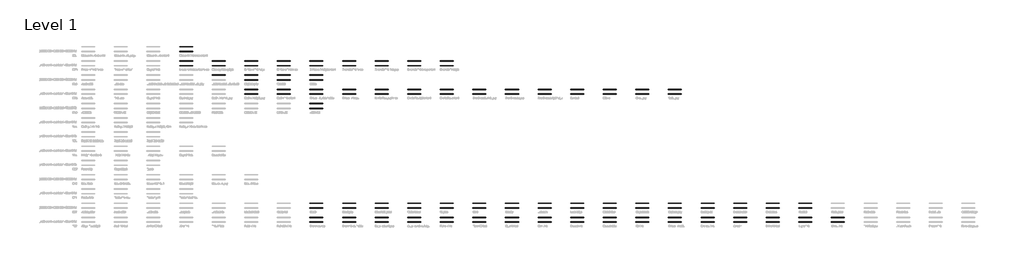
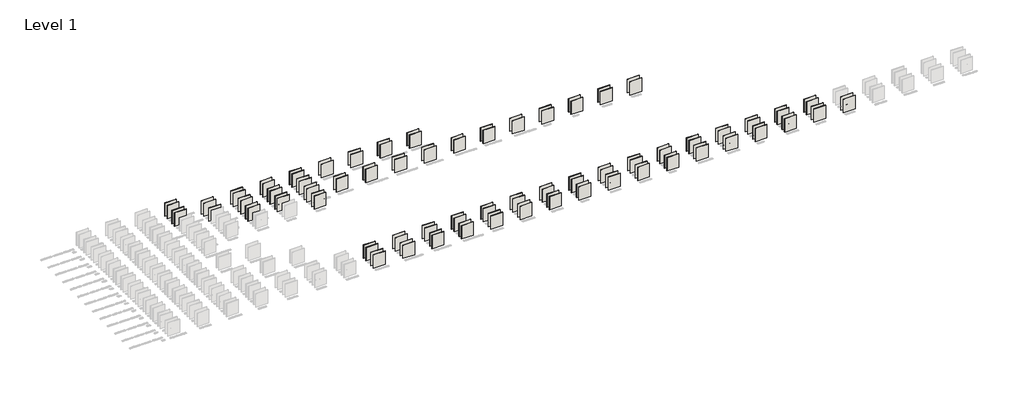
# One storey, part 2 of 99: 123 walls.
"""IFC4 building model written with IfcOpenShell, lengths in millimetres."""

from ifc_helpers import new_model, si_unit, origin, origin_with_axes, place, context, project, spatial, polyline, outline, extrude, element, save

model = new_model("IFC4")

# Units and contexts
model_context = context("Model", 3, world=origin())
ifc_project = project(units=[si_unit("LENGTHUNIT", "METRE", prefix="MILLI")], contexts=[model_context])

# Site, building, storey
site = spatial("IfcSite", under=ifc_project)
building = spatial("IfcBuilding", under=site)
storey = spatial("IfcBuildingStorey", under=building, Name="Level 1", Elevation=0.0)

# Walls
placement = place(None, origin())
element("IfcWall", 1, ObjectType="RSen_22_WA_partition wall - metal stud - Clicwall FR BST Carrara creamy 2785x600x10 mm_Unilin", at=placement, inside=storey, context=model_context, shape_type="SweptSolid", body=[
    extrude(outline(polyline([(72694.8, 1179.2), (69342.0, 1179.2), (69342.0, 1259.2), (72694.8, 1259.2), (72694.8, 1179.2)])), origin_with_axes(), (0.0, 0.0, 1.0), 4000.0),
])
element("IfcWall", 2, ObjectType="RSen_22_WA_partition wall - metal stud - chipboard - Clicwall FR BST Carrara creamy 2785x600x10 mm_Unilin", at=placement, inside=storey, context=model_context, shape_type="SweptSolid", body=[
    extrude(outline(polyline([(72694.8, 2392.4), (69342.0, 2392.4), (69342.0, 2484.4), (72694.8, 2484.4), (72694.8, 2392.4)])), origin_with_axes(), (0.0, 0.0, 1.0), 4000.0),
])
element("IfcWall", 3, ObjectType="RSen_22_WA_partition wall - metal stud - Clicwall FR BST Carrara frosted white 2785x600x10 mm_Unilin", at=placement, inside=storey, context=model_context, shape_type="SweptSolid", body=[
    extrude(outline(polyline([(81076.8, 1179.2), (77724.0, 1179.2), (77724.0, 1259.2), (81076.8, 1259.2), (81076.8, 1179.2)])), origin_with_axes(), (0.0, 0.0, 1.0), 4000.0),
])
element("IfcWall", 4, ObjectType="RSen_22_WA_partition wall - metal stud - chipboard - Clicwall FR BST Carrara frosted white 2785x600x10 mm_Unilin", at=placement, inside=storey, context=model_context, shape_type="SweptSolid", body=[
    extrude(outline(polyline([(81076.8, 2392.4), (77724.0, 2392.4), (77724.0, 2484.4), (81076.8, 2484.4), (81076.8, 2392.4)])), origin_with_axes(), (0.0, 0.0, 1.0), 4000.0),
])
element("IfcWall", 5, ObjectType="RSen_22_WA_partition wall - metal stud - Clicwall FR BST Ceppo mineral grey 2785x600x10 mm_Unilin", at=placement, inside=storey, context=model_context, shape_type="SweptSolid", body=[
    extrude(outline(polyline([(89458.8, 1179.2), (86106.0, 1179.2), (86106.0, 1259.2), (89458.8, 1259.2), (89458.8, 1179.2)])), origin_with_axes(), (0.0, 0.0, 1.0), 4000.0),
])
element("IfcWall", 6, ObjectType="RSen_22_WA_partition wall - metal stud - chipboard - Clicwall FR BST Ceppo mineral grey 2785x600x10 mm_Unilin", at=placement, inside=storey, context=model_context, shape_type="SweptSolid", body=[
    extrude(outline(polyline([(89458.8, 2392.4), (86106.0, 2392.4), (86106.0, 2484.4), (89458.8, 2484.4), (89458.8, 2392.4)])), origin_with_axes(), (0.0, 0.0, 1.0), 4000.0),
])
element("IfcWall", 7, ObjectType="RSen_22_WA_partition wall - metal stud - Clicwall FR BST Ceppo seashore beige 2785x600x10 mm_Unilin", at=placement, inside=storey, context=model_context, shape_type="SweptSolid", body=[
    extrude(outline(polyline([(97840.8, 1179.2), (94488.0, 1179.2), (94488.0, 1259.2), (97840.8, 1259.2), (97840.8, 1179.2)])), origin_with_axes(), (0.0, 0.0, 1.0), 4000.0),
])
element("IfcWall", 8, ObjectType="RSen_22_WA_partition wall - metal stud - chipboard - Clicwall FR BST Ceppo seashore beige 2785x600x10 mm_Unilin", at=placement, inside=storey, context=model_context, shape_type="SweptSolid", body=[
    extrude(outline(polyline([(97840.8, 2392.4), (94488.0, 2392.4), (94488.0, 2484.4), (97840.8, 2484.4), (97840.8, 2392.4)])), origin_with_axes(), (0.0, 0.0, 1.0), 4000.0),
])
element("IfcWall", 9, ObjectType="RSen_22_WA_partition wall - metal stud - Clicwall FR BST Delano Oak 2785x600x10 mm_Unilin", at=placement, inside=storey, context=model_context, shape_type="SweptSolid", body=[
    extrude(outline(polyline([(106222.8, 1179.2), (102870.0, 1179.2), (102870.0, 1259.2), (106222.8, 1259.2), (106222.8, 1179.2)])), origin_with_axes(), (0.0, 0.0, 1.0), 4000.0),
])
element("IfcWall", 10, ObjectType="RSen_22_WA_partition wall - metal stud - chipboard - Clicwall FR BST Delano Oak 2785x600x10 mm_Unilin", at=placement, inside=storey, context=model_context, shape_type="SweptSolid", body=[
    extrude(outline(polyline([(106222.8, 2392.4), (102870.0, 2392.4), (102870.0, 2484.4), (106222.8, 2484.4), (106222.8, 2392.4)])), origin_with_axes(), (0.0, 0.0, 1.0), 4000.0),
])
element("IfcWall", 11, ObjectType="RSen_22_WA_partition wall - metal stud - Clicwall FR BST Dinara Walnut 2785x600x10 mm_Unilin", at=placement, inside=storey, context=model_context, shape_type="SweptSolid", body=[
    extrude(outline(polyline([(114604.8, 1179.2), (111252.0, 1179.2), (111252.0, 1259.2), (114604.8, 1259.2), (114604.8, 1179.2)])), origin_with_axes(), (0.0, 0.0, 1.0), 4000.0),
])
element("IfcWall", 12, ObjectType="RSen_22_WA_partition wall - metal stud - chipboard - Clicwall FR BST Dinara Walnut 2785x600x10 mm_Unilin", at=placement, inside=storey, context=model_context, shape_type="SweptSolid", body=[
    extrude(outline(polyline([(114604.8, 2392.4), (111252.0, 2392.4), (111252.0, 2484.4), (114604.8, 2484.4), (114604.8, 2392.4)])), origin_with_axes(), (0.0, 0.0, 1.0), 4000.0),
])
element("IfcWall", 13, ObjectType="RSen_22_WA_partition wall - metal stud - Clicwall FR BST Eiger Walnut 2785x600x10 mm_Unilin", at=placement, inside=storey, context=model_context, shape_type="SweptSolid", body=[
    extrude(outline(polyline([(122986.8, 1179.2), (119634.0, 1179.2), (119634.0, 1259.2), (122986.8, 1259.2), (122986.8, 1179.2)])), origin_with_axes(), (0.0, 0.0, 1.0), 4000.0),
])
element("IfcWall", 14, ObjectType="RSen_22_WA_partition wall - metal stud - chipboard - Clicwall FR BST Eiger Walnut 2785x600x10 mm_Unilin", at=placement, inside=storey, context=model_context, shape_type="SweptSolid", body=[
    extrude(outline(polyline([(122986.8, 2392.4), (119634.0, 2392.4), (119634.0, 2484.4), (122986.8, 2484.4), (122986.8, 2392.4)])), origin_with_axes(), (0.0, 0.0, 1.0), 4000.0),
])
element("IfcWall", 15, ObjectType="RSen_22_WA_partition wall - metal stud - Clicwall FR BST Etna Oak 2785x600x10 mm_Unilin", at=placement, inside=storey, context=model_context, shape_type="SweptSolid", body=[
    extrude(outline(polyline([(131368.8, 1179.2), (128016.0, 1179.2), (128016.0, 1259.2), (131368.8, 1259.2), (131368.8, 1179.2)])), origin_with_axes(), (0.0, 0.0, 1.0), 4000.0),
])
element("IfcWall", 16, ObjectType="RSen_22_WA_partition wall - metal stud - chipboard - Clicwall FR BST Etna Oak 2785x600x10 mm_Unilin", at=placement, inside=storey, context=model_context, shape_type="SweptSolid", body=[
    extrude(outline(polyline([(131368.8, 2392.4), (128016.0, 2392.4), (128016.0, 2484.4), (131368.8, 2484.4), (131368.8, 2392.4)])), origin_with_axes(), (0.0, 0.0, 1.0), 4000.0),
])
element("IfcWall", 17, ObjectType="RSen_22_WA_partition wall - metal stud - Clicwall FR BST Everest oak 2785x600x10 mm_Unilin", at=placement, inside=storey, context=model_context, shape_type="SweptSolid", body=[
    extrude(outline(polyline([(139750.8, 1179.2), (136398.0, 1179.2), (136398.0, 1259.2), (139750.8, 1259.2), (139750.8, 1179.2)])), origin_with_axes(), (0.0, 0.0, 1.0), 4000.0),
])
element("IfcWall", 18, ObjectType="RSen_22_WA_partition wall - metal stud - chipboard - Clicwall FR BST Everest oak 2785x600x10 mm_Unilin", at=placement, inside=storey, context=model_context, shape_type="SweptSolid", body=[
    extrude(outline(polyline([(139750.8, 2392.4), (136398.0, 2392.4), (136398.0, 2484.4), (139750.8, 2484.4), (139750.8, 2392.4)])), origin_with_axes(), (0.0, 0.0, 1.0), 4000.0),
])
element("IfcWall", 19, ObjectType="RSen_22_WA_partition wall - metal stud - Clicwall FR BST Everest white 2785x600x10 mm_Unilin", at=placement, inside=storey, context=model_context, shape_type="SweptSolid", body=[
    extrude(outline(polyline([(148132.8, 1179.2), (144780.0, 1179.2), (144780.0, 1259.2), (148132.8, 1259.2), (148132.8, 1179.2)])), origin_with_axes(), (0.0, 0.0, 1.0), 4000.0),
])
element("IfcWall", 20, ObjectType="RSen_22_WA_partition wall - metal stud - chipboard - Clicwall FR BST Everest white 2785x600x10 mm_Unilin", at=placement, inside=storey, context=model_context, shape_type="SweptSolid", body=[
    extrude(outline(polyline([(148132.8, 2392.4), (144780.0, 2392.4), (144780.0, 2484.4), (148132.8, 2484.4), (148132.8, 2392.4)])), origin_with_axes(), (0.0, 0.0, 1.0), 4000.0),
])
element("IfcWall", 21, ObjectType="RSen_22_WA_partition wall - metal stud - Clicwall FR BST Fiji Oak  2785x600x10 mm_Unilin", at=placement, inside=storey, context=model_context, shape_type="SweptSolid", body=[
    extrude(outline(polyline([(156514.8, 1179.2), (153162.0, 1179.2), (153162.0, 1259.2), (156514.8, 1259.2), (156514.8, 1179.2)])), origin_with_axes(), (0.0, 0.0, 1.0), 4000.0),
])
element("IfcWall", 22, ObjectType="RSen_22_WA_partition wall - metal stud - chipboard - Clicwall FR BST Fiji Oak  2785x600x10 mm_Unilin", at=placement, inside=storey, context=model_context, shape_type="SweptSolid", body=[
    extrude(outline(polyline([(156514.8, 2392.4), (153162.0, 2392.4), (153162.0, 2484.4), (156514.8, 2484.4), (156514.8, 2392.4)])), origin_with_axes(), (0.0, 0.0, 1.0), 4000.0),
])
element("IfcWall", 23, ObjectType="RSen_22_WA_partition wall - metal stud - Clicwall FR BST Flakewood white 2785x600x10 mm_Unilin", at=placement, inside=storey, context=model_context, shape_type="SweptSolid", body=[
    extrude(outline(polyline([(164896.8, 1179.2), (161544.0, 1179.2), (161544.0, 1259.2), (164896.8, 1259.2), (164896.8, 1179.2)])), origin_with_axes(), (0.0, 0.0, 1.0), 4000.0),
])
element("IfcWall", 24, ObjectType="RSen_22_WA_partition wall - metal stud - chipboard - Clicwall FR BST Flakewood white 2785x600x10 mm_Unilin", at=placement, inside=storey, context=model_context, shape_type="SweptSolid", body=[
    extrude(outline(polyline([(164896.8, 2392.4), (161544.0, 2392.4), (161544.0, 2484.4), (164896.8, 2484.4), (164896.8, 2392.4)])), origin_with_axes(), (0.0, 0.0, 1.0), 4000.0),
])
element("IfcWall", 25, ObjectType="RSen_22_WA_partition wall - metal stud - Clicwall FR BST Garonne Oak 2785x600x10 mm_Unilin", at=placement, inside=storey, context=model_context, shape_type="SweptSolid", body=[
    extrude(outline(polyline([(173278.8, 1179.2), (169926.0, 1179.2), (169926.0, 1259.2), (173278.8, 1259.2), (173278.8, 1179.2)])), origin_with_axes(), (0.0, 0.0, 1.0), 4000.0),
])
element("IfcWall", 26, ObjectType="RSen_22_WA_partition wall - metal stud - chipboard - Clicwall FR BST Garonne Oak 2785x600x10 mm_Unilin", at=placement, inside=storey, context=model_context, shape_type="SweptSolid", body=[
    extrude(outline(polyline([(173278.8, 2392.4), (169926.0, 2392.4), (169926.0, 2484.4), (173278.8, 2484.4), (173278.8, 2392.4)])), origin_with_axes(), (0.0, 0.0, 1.0), 4000.0),
])
element("IfcWall", 27, ObjectType="RSen_22_WA_partition wall - metal stud - Clicwall FR BST Granulo 2785x600x10 mm_Unilin", at=placement, inside=storey, context=model_context, shape_type="SweptSolid", body=[
    extrude(outline(polyline([(181660.8, 1179.2), (178308.0, 1179.2), (178308.0, 1259.2), (181660.8, 1259.2), (181660.8, 1179.2)])), origin_with_axes(), (0.0, 0.0, 1.0), 4000.0),
])
element("IfcWall", 28, ObjectType="RSen_22_WA_partition wall - metal stud - chipboard - Clicwall FR BST Granulo 2785x600x10 mm_Unilin", at=placement, inside=storey, context=model_context, shape_type="SweptSolid", body=[
    extrude(outline(polyline([(181660.8, 2392.4), (178308.0, 2392.4), (178308.0, 2484.4), (181660.8, 2484.4), (181660.8, 2392.4)])), origin_with_axes(), (0.0, 0.0, 1.0), 4000.0),
])
element("IfcWall", 29, ObjectType="RSen_22_WA_partition wall - metal stud - Clicwall FR BST Italian Walnut 2785x600x10 mm_Unilin", at=placement, inside=storey, context=model_context, shape_type="SweptSolid", body=[
    extrude(outline(polyline([(190042.8, 1179.2), (186690.0, 1179.2), (186690.0, 1259.2), (190042.8, 1259.2), (190042.8, 1179.2)])), origin_with_axes(), (0.0, 0.0, 1.0), 4000.0),
])
element("IfcWall", 30, ObjectType="RSen_22_WA_partition wall - metal stud - chipboard - Clicwall FR BST Italian Walnut 2785x600x10 mm_Unilin", at=placement, inside=storey, context=model_context, shape_type="SweptSolid", body=[
    extrude(outline(polyline([(190042.8, 2392.4), (186690.0, 2392.4), (186690.0, 2484.4), (190042.8, 2484.4), (190042.8, 2392.4)])), origin_with_axes(), (0.0, 0.0, 1.0), 4000.0),
])
element("IfcWall", 31, ObjectType="RSen_22_WA_partition wall - metal stud - Clicwall FR BST Logan Oak 2785x600x10 mm_Unilin", at=placement, inside=storey, context=model_context, shape_type="SweptSolid", body=[
    extrude(outline(polyline([(198424.8, 1179.2), (195072.0, 1179.2), (195072.0, 1259.2), (198424.8, 1259.2), (198424.8, 1179.2)])), origin_with_axes(), (0.0, 0.0, 1.0), 4000.0),
])
element("IfcWall", 32, ObjectType="RSen_22_WA_partition wall - metal stud - chipboard - Clicwall FR BST Logan Oak 2785x600x10 mm_Unilin", at=placement, inside=storey, context=model_context, shape_type="SweptSolid", body=[
    extrude(outline(polyline([(198424.8, 2392.4), (195072.0, 2392.4), (195072.0, 2484.4), (198424.8, 2484.4), (198424.8, 2392.4)])), origin_with_axes(), (0.0, 0.0, 1.0), 4000.0),
])
element("IfcWall", 33, ObjectType="RSen_22_WA_partition wall - metal stud - Clicwall FR BST Marne Oak 2785x600x10 mm_Unilin", at=placement, inside=storey, context=model_context, shape_type="SweptSolid", body=[
    extrude(outline(polyline([(206806.8, 1179.2), (203454.0, 1179.2), (203454.0, 1259.2), (206806.8, 1259.2), (206806.8, 1179.2)])), origin_with_axes(), (0.0, 0.0, 1.0), 4000.0),
])
element("IfcWall", 34, ObjectType="RSen_22_WA_partition wall - metal stud - chipboard - Clicwall FR BST Marne Oak 2785x600x10 mm_Unilin", at=placement, inside=storey, context=model_context, shape_type="SweptSolid", body=[
    extrude(outline(polyline([(206806.8, 2392.4), (203454.0, 2392.4), (203454.0, 2484.4), (206806.8, 2484.4), (206806.8, 2392.4)])), origin_with_axes(), (0.0, 0.0, 1.0), 4000.0),
])
element("IfcWall", 35, ObjectType="RSen_22_WA_partition wall - metal stud - Clicwall FR CST Choco 2785x600x10 mm_Unilin", at=placement, inside=storey, context=model_context, shape_type="SweptSolid", body=[
    extrude(outline(polyline([(72694.8, 4836.8), (69342.0, 4836.8), (69342.0, 4916.8), (72694.8, 4916.8), (72694.8, 4836.8)])), origin_with_axes(), (0.0, 0.0, 1.0), 4000.0),
])
element("IfcWall", 36, ObjectType="RSen_22_WA_partition wall - metal stud - chipboard - Clicwall FR CST Choco 2785x600x10 mm_Unilin", at=placement, inside=storey, context=model_context, shape_type="SweptSolid", body=[
    extrude(outline(polyline([(72694.8, 6050.0), (69342.0, 6050.0), (69342.0, 6142.0), (72694.8, 6142.0), (72694.8, 6050.0)])), origin_with_axes(), (0.0, 0.0, 1.0), 4000.0),
])
element("IfcWall", 37, ObjectType="RSen_22_WA_partition wall - metal stud - Clicwall FR CST Cloud grey 2785x600x10 mm_Unilin", at=placement, inside=storey, context=model_context, shape_type="SweptSolid", body=[
    extrude(outline(polyline([(81076.8, 4836.8), (77724.0, 4836.8), (77724.0, 4916.8), (81076.8, 4916.8), (81076.8, 4836.8)])), origin_with_axes(), (0.0, 0.0, 1.0), 4000.0),
])
element("IfcWall", 38, ObjectType="RSen_22_WA_partition wall - metal stud - chipboard - Clicwall FR CST Cloud grey 2785x600x10 mm_Unilin", at=placement, inside=storey, context=model_context, shape_type="SweptSolid", body=[
    extrude(outline(polyline([(81076.8, 6050.0), (77724.0, 6050.0), (77724.0, 6142.0), (81076.8, 6142.0), (81076.8, 6050.0)])), origin_with_axes(), (0.0, 0.0, 1.0), 4000.0),
])
element("IfcWall", 39, ObjectType="RSen_22_WA_partition wall - metal stud - Clicwall FR CST Cloverfield green 2785x600x10 mm_Unilin", at=placement, inside=storey, context=model_context, shape_type="SweptSolid", body=[
    extrude(outline(polyline([(89458.8, 4836.8), (86106.0, 4836.8), (86106.0, 4916.8), (89458.8, 4916.8), (89458.8, 4836.8)])), origin_with_axes(), (0.0, 0.0, 1.0), 4000.0),
])
element("IfcWall", 40, ObjectType="RSen_22_WA_partition wall - metal stud - chipboard - Clicwall FR CST Cloverfield green 2785x600x10 mm_Unilin", at=placement, inside=storey, context=model_context, shape_type="SweptSolid", body=[
    extrude(outline(polyline([(89458.8, 6050.0), (86106.0, 6050.0), (86106.0, 6142.0), (89458.8, 6142.0), (89458.8, 6050.0)])), origin_with_axes(), (0.0, 0.0, 1.0), 4000.0),
])
element("IfcWall", 41, ObjectType="RSen_22_WA_partition wall - metal stud - Clicwall FR CST Coffee brown 2785x600x10 mm_Unilin", at=placement, inside=storey, context=model_context, shape_type="SweptSolid", body=[
    extrude(outline(polyline([(97840.8, 4836.8), (94488.0, 4836.8), (94488.0, 4916.8), (97840.8, 4916.8), (97840.8, 4836.8)])), origin_with_axes(), (0.0, 0.0, 1.0), 4000.0),
])
element("IfcWall", 42, ObjectType="RSen_22_WA_partition wall - metal stud - chipboard - Clicwall FR CST Coffee brown 2785x600x10 mm_Unilin", at=placement, inside=storey, context=model_context, shape_type="SweptSolid", body=[
    extrude(outline(polyline([(97840.8, 6050.0), (94488.0, 6050.0), (94488.0, 6142.0), (97840.8, 6142.0), (97840.8, 6050.0)])), origin_with_axes(), (0.0, 0.0, 1.0), 4000.0),
])
element("IfcWall", 43, ObjectType="RSen_22_WA_partition wall - metal stud - Clicwall FR CST Cognac 2785x600x10 mm_Unilin", at=placement, inside=storey, context=model_context, shape_type="SweptSolid", body=[
    extrude(outline(polyline([(106222.8, 4836.8), (102870.0, 4836.8), (102870.0, 4916.8), (106222.8, 4916.8), (106222.8, 4836.8)])), origin_with_axes(), (0.0, 0.0, 1.0), 4000.0),
])
element("IfcWall", 44, ObjectType="RSen_22_WA_partition wall - metal stud - chipboard - Clicwall FR CST Cognac 2785x600x10 mm_Unilin", at=placement, inside=storey, context=model_context, shape_type="SweptSolid", body=[
    extrude(outline(polyline([(106222.8, 6050.0), (102870.0, 6050.0), (102870.0, 6142.0), (106222.8, 6142.0), (106222.8, 6050.0)])), origin_with_axes(), (0.0, 0.0, 1.0), 4000.0),
])
element("IfcWall", 45, ObjectType="RSen_22_WA_partition wall - metal stud - Clicwall FR CST Coral 2785x600x10 mm_Unilin", at=placement, inside=storey, context=model_context, shape_type="SweptSolid", body=[
    extrude(outline(polyline([(114604.8, 4836.8), (111252.0, 4836.8), (111252.0, 4916.8), (114604.8, 4916.8), (114604.8, 4836.8)])), origin_with_axes(), (0.0, 0.0, 1.0), 4000.0),
])
element("IfcWall", 46, ObjectType="RSen_22_WA_partition wall - metal stud - chipboard - Clicwall FR CST Coral 2785x600x10 mm_Unilin", at=placement, inside=storey, context=model_context, shape_type="SweptSolid", body=[
    extrude(outline(polyline([(114604.8, 6050.0), (111252.0, 6050.0), (111252.0, 6142.0), (114604.8, 6142.0), (114604.8, 6050.0)])), origin_with_axes(), (0.0, 0.0, 1.0), 4000.0),
])
element("IfcWall", 47, ObjectType="RSen_22_WA_partition wall - metal stud - Clicwall FR CST Creamy 2785x600x10 mm_Unilin", at=placement, inside=storey, context=model_context, shape_type="SweptSolid", body=[
    extrude(outline(polyline([(122986.8, 4836.8), (119634.0, 4836.8), (119634.0, 4916.8), (122986.8, 4916.8), (122986.8, 4836.8)])), origin_with_axes(), (0.0, 0.0, 1.0), 4000.0),
])
element("IfcWall", 48, ObjectType="RSen_22_WA_partition wall - metal stud - chipboard - Clicwall FR CST Creamy 2785x600x10 mm_Unilin", at=placement, inside=storey, context=model_context, shape_type="SweptSolid", body=[
    extrude(outline(polyline([(122986.8, 6050.0), (119634.0, 6050.0), (119634.0, 6142.0), (122986.8, 6142.0), (122986.8, 6050.0)])), origin_with_axes(), (0.0, 0.0, 1.0), 4000.0),
])
element("IfcWall", 49, ObjectType="RSen_22_WA_partition wall - metal stud - Clicwall FR CST Dark ecru 2785x600x10 mm_Unilin", at=placement, inside=storey, context=model_context, shape_type="SweptSolid", body=[
    extrude(outline(polyline([(131368.8, 4836.8), (128016.0, 4836.8), (128016.0, 4916.8), (131368.8, 4916.8), (131368.8, 4836.8)])), origin_with_axes(), (0.0, 0.0, 1.0), 4000.0),
])
element("IfcWall", 50, ObjectType="RSen_22_WA_partition wall - metal stud - chipboard - Clicwall FR CST Dark ecru 2785x600x10 mm_Unilin", at=placement, inside=storey, context=model_context, shape_type="SweptSolid", body=[
    extrude(outline(polyline([(131368.8, 6050.0), (128016.0, 6050.0), (128016.0, 6142.0), (131368.8, 6142.0), (131368.8, 6050.0)])), origin_with_axes(), (0.0, 0.0, 1.0), 4000.0),
])
element("IfcWall", 51, ObjectType="RSen_22_WA_partition wall - metal stud - Clicwall FR CST Dune beige 2785x600x10 mm_Unilin", at=placement, inside=storey, context=model_context, shape_type="SweptSolid", body=[
    extrude(outline(polyline([(139750.8, 4836.8), (136398.0, 4836.8), (136398.0, 4916.8), (139750.8, 4916.8), (139750.8, 4836.8)])), origin_with_axes(), (0.0, 0.0, 1.0), 4000.0),
])
element("IfcWall", 52, ObjectType="RSen_22_WA_partition wall - metal stud - chipboard - Clicwall FR CST Dune beige 2785x600x10 mm_Unilin", at=placement, inside=storey, context=model_context, shape_type="SweptSolid", body=[
    extrude(outline(polyline([(139750.8, 6050.0), (136398.0, 6050.0), (136398.0, 6142.0), (139750.8, 6142.0), (139750.8, 6050.0)])), origin_with_axes(), (0.0, 0.0, 1.0), 4000.0),
])
element("IfcWall", 53, ObjectType="RSen_22_WA_partition wall - metal stud - Clicwall FR CST Electric blue 2785x600x10 mm_Unilin", at=placement, inside=storey, context=model_context, shape_type="SweptSolid", body=[
    extrude(outline(polyline([(148132.8, 4836.8), (144780.0, 4836.8), (144780.0, 4916.8), (148132.8, 4916.8), (148132.8, 4836.8)])), origin_with_axes(), (0.0, 0.0, 1.0), 4000.0),
])
element("IfcWall", 54, ObjectType="RSen_22_WA_partition wall - metal stud - chipboard - Clicwall FR CST Electric blue 2785x600x10 mm_Unilin", at=placement, inside=storey, context=model_context, shape_type="SweptSolid", body=[
    extrude(outline(polyline([(148132.8, 6050.0), (144780.0, 6050.0), (144780.0, 6142.0), (148132.8, 6142.0), (148132.8, 6050.0)])), origin_with_axes(), (0.0, 0.0, 1.0), 4000.0),
])
element("IfcWall", 55, ObjectType="RSen_22_WA_partition wall - metal stud - Clicwall FR CST Elegant black 2785x600x10 mm_Unilin", at=placement, inside=storey, context=model_context, shape_type="SweptSolid", body=[
    extrude(outline(polyline([(156514.8, 4836.8), (153162.0, 4836.8), (153162.0, 4916.8), (156514.8, 4916.8), (156514.8, 4836.8)])), origin_with_axes(), (0.0, 0.0, 1.0), 4000.0),
])
element("IfcWall", 56, ObjectType="RSen_22_WA_partition wall - metal stud - chipboard - Clicwall FR CST Elegant black 2785x600x10 mm_Unilin", at=placement, inside=storey, context=model_context, shape_type="SweptSolid", body=[
    extrude(outline(polyline([(156514.8, 6050.0), (153162.0, 6050.0), (153162.0, 6142.0), (156514.8, 6142.0), (156514.8, 6050.0)])), origin_with_axes(), (0.0, 0.0, 1.0), 4000.0),
])
element("IfcWall", 57, ObjectType="RSen_22_WA_partition wall - metal stud - Clicwall FR CST Elephant grey 2785x600x10 mm_Unilin", at=placement, inside=storey, context=model_context, shape_type="SweptSolid", body=[
    extrude(outline(polyline([(164896.8, 4836.8), (161544.0, 4836.8), (161544.0, 4916.8), (164896.8, 4916.8), (164896.8, 4836.8)])), origin_with_axes(), (0.0, 0.0, 1.0), 4000.0),
])
element("IfcWall", 58, ObjectType="RSen_22_WA_partition wall - metal stud - chipboard - Clicwall FR CST Elephant grey 2785x600x10 mm_Unilin", at=placement, inside=storey, context=model_context, shape_type="SweptSolid", body=[
    extrude(outline(polyline([(164896.8, 6050.0), (161544.0, 6050.0), (161544.0, 6142.0), (164896.8, 6142.0), (164896.8, 6050.0)])), origin_with_axes(), (0.0, 0.0, 1.0), 4000.0),
])
element("IfcWall", 59, ObjectType="RSen_22_WA_partition wall - metal stud - Clicwall FR CST Evening red 2785x600x10 mm_Unilin", at=placement, inside=storey, context=model_context, shape_type="SweptSolid", body=[
    extrude(outline(polyline([(173278.8, 4836.8), (169926.0, 4836.8), (169926.0, 4916.8), (173278.8, 4916.8), (173278.8, 4836.8)])), origin_with_axes(), (0.0, 0.0, 1.0), 4000.0),
])
element("IfcWall", 60, ObjectType="RSen_22_WA_partition wall - metal stud - chipboard - Clicwall FR CST Evening red 2785x600x10 mm_Unilin", at=placement, inside=storey, context=model_context, shape_type="SweptSolid", body=[
    extrude(outline(polyline([(173278.8, 6050.0), (169926.0, 6050.0), (169926.0, 6142.0), (173278.8, 6142.0), (173278.8, 6050.0)])), origin_with_axes(), (0.0, 0.0, 1.0), 4000.0),
])
element("IfcWall", 61, ObjectType="RSen_22_WA_partition wall - metal stud - Clicwall FR CST Everest white 2785x600x10 mm_Unilin", at=placement, inside=storey, context=model_context, shape_type="SweptSolid", body=[
    extrude(outline(polyline([(181660.8, 4836.8), (178308.0, 4836.8), (178308.0, 4916.8), (181660.8, 4916.8), (181660.8, 4836.8)])), origin_with_axes(), (0.0, 0.0, 1.0), 4000.0),
])
element("IfcWall", 62, ObjectType="RSen_22_WA_partition wall - metal stud - chipboard - Clicwall FR CST Everest white 2785x600x10 mm_Unilin", at=placement, inside=storey, context=model_context, shape_type="SweptSolid", body=[
    extrude(outline(polyline([(181660.8, 6050.0), (178308.0, 6050.0), (178308.0, 6142.0), (181660.8, 6142.0), (181660.8, 6050.0)])), origin_with_axes(), (0.0, 0.0, 1.0), 4000.0),
])
element("IfcWall", 63, ObjectType="RSen_22_WA_partition wall - metal stud - Clicwall FR CST Exotic blue 2785x600x10 mm_Unilin", at=placement, inside=storey, context=model_context, shape_type="SweptSolid", body=[
    extrude(outline(polyline([(190042.8, 4836.8), (186690.0, 4836.8), (186690.0, 4916.8), (190042.8, 4916.8), (190042.8, 4836.8)])), origin_with_axes(), (0.0, 0.0, 1.0), 4000.0),
])
element("IfcWall", 64, ObjectType="RSen_22_WA_partition wall - metal stud - chipboard - Clicwall FR CST Exotic blue 2785x600x10 mm_Unilin", at=placement, inside=storey, context=model_context, shape_type="SweptSolid", body=[
    extrude(outline(polyline([(190042.8, 6050.0), (186690.0, 6050.0), (186690.0, 6142.0), (190042.8, 6142.0), (190042.8, 6050.0)])), origin_with_axes(), (0.0, 0.0, 1.0), 4000.0),
])
element("IfcWall", 65, ObjectType="RSen_22_WA_partition wall - metal stud - Clicwall FR CST Fondant  2785x600x10 mm_Unilin", at=placement, inside=storey, context=model_context, shape_type="SweptSolid", body=[
    extrude(outline(polyline([(198424.8, 4836.8), (195072.0, 4836.8), (195072.0, 4916.8), (198424.8, 4916.8), (198424.8, 4836.8)])), origin_with_axes(), (0.0, 0.0, 1.0), 4000.0),
])
element("IfcWall", 66, ObjectType="RSen_22_WA_partition wall - metal stud - chipboard - Clicwall FR CST Fondant  2785x600x10 mm_Unilin", at=placement, inside=storey, context=model_context, shape_type="SweptSolid", body=[
    extrude(outline(polyline([(198424.8, 6050.0), (195072.0, 6050.0), (195072.0, 6142.0), (198424.8, 6142.0), (198424.8, 6050.0)])), origin_with_axes(), (0.0, 0.0, 1.0), 4000.0),
])
element("IfcWall", 67, ObjectType="RSen_22_WA_partition wall - metal stud - Clicwall FR W03 Rena Pine 2785x600x10 mm_Unilin", at=placement, inside=storey, context=model_context, shape_type="SweptSolid", body=[
    extrude(outline(polyline([(72694.8, 30440.0), (69342.0, 30440.0), (69342.0, 30520.0), (72694.8, 30520.0), (72694.8, 30440.0)])), origin_with_axes(), (0.0, 0.0, 1.0), 4000.0),
])
element("IfcWall", 68, ObjectType="RSen_22_WA_partition wall - metal stud - chipboard - Clicwall FR W03 Rena Pine 2785x600x10 mm_Unilin", at=placement, inside=storey, context=model_context, shape_type="SweptSolid", body=[
    extrude(outline(polyline([(72694.8, 31653.2), (69342.0, 31653.2), (69342.0, 31745.2), (72694.8, 31745.2), (72694.8, 31653.2)])), origin_with_axes(), (0.0, 0.0, 1.0), 4000.0),
])
element("IfcWall", 69, ObjectType="RSen_22_WA_partition wall - metal stud - Clicwall FR W04 Emilia Oak light grey 2785x600x10 mm_Unilin", at=placement, inside=storey, context=model_context, shape_type="SweptSolid", body=[
    extrude(outline(polyline([(55930.8, 34097.6), (52578.0, 34097.6), (52578.0, 34177.6), (55930.8, 34177.6), (55930.8, 34097.6)])), origin_with_axes(), (0.0, 0.0, 1.0), 4000.0),
])
element("IfcWall", 70, ObjectType="RSen_22_WA_partition wall - metal stud - chipboard - Clicwall FR W04 Emilia Oak light grey 2785x600x10 mm_Unilin", at=placement, inside=storey, context=model_context, shape_type="SweptSolid", body=[
    extrude(outline(polyline([(55930.8, 35310.8), (52578.0, 35310.8), (52578.0, 35402.8), (55930.8, 35402.8), (55930.8, 35310.8)])), origin_with_axes(), (0.0, 0.0, 1.0), 4000.0),
])
element("IfcWall", 71, ObjectType="RSen_22_WA_partition wall - metal stud - Clicwall FR W04 Emilia Oak natural 2785x600x10 mm_Unilin", at=placement, inside=storey, context=model_context, shape_type="SweptSolid", body=[
    extrude(outline(polyline([(64312.8, 34097.6), (60960.0, 34097.6), (60960.0, 34177.6), (64312.8, 34177.6), (64312.8, 34097.6)])), origin_with_axes(), (0.0, 0.0, 1.0), 4000.0),
])
element("IfcWall", 72, ObjectType="RSen_22_WA_partition wall - metal stud - chipboard - Clicwall FR W04 Emilia Oak natural 2785x600x10 mm_Unilin", at=placement, inside=storey, context=model_context, shape_type="SweptSolid", body=[
    extrude(outline(polyline([(64312.8, 35310.8), (60960.0, 35310.8), (60960.0, 35402.8), (64312.8, 35402.8), (64312.8, 35310.8)])), origin_with_axes(), (0.0, 0.0, 1.0), 4000.0),
])
element("IfcWall", 73, ObjectType="RSen_22_WA_partition wall - metal stud - Clicwall FR W04 Flakewood painted white 2785x600x10 mm_Unilin", at=placement, inside=storey, context=model_context, shape_type="SweptSolid", body=[
    extrude(outline(polyline([(72694.8, 34097.6), (69342.0, 34097.6), (69342.0, 34177.6), (72694.8, 34177.6), (72694.8, 34097.6)])), origin_with_axes(), (0.0, 0.0, 1.0), 4000.0),
])
element("IfcWall", 74, ObjectType="RSen_22_WA_partition wall - metal stud - chipboard - Clicwall FR W04 Flakewood painted white 2785x600x10 mm_Unilin", at=placement, inside=storey, context=model_context, shape_type="SweptSolid", body=[
    extrude(outline(polyline([(72694.8, 35310.8), (69342.0, 35310.8), (69342.0, 35402.8), (72694.8, 35402.8), (72694.8, 35310.8)])), origin_with_axes(), (0.0, 0.0, 1.0), 4000.0),
])
element("IfcWall", 75, ObjectType="RSen_22_WA_partition wall - metal stud - Clicwall FR W04 Flakewood taupe 2785x600x10 mm_Unilin", at=placement, inside=storey, context=model_context, shape_type="SweptSolid", body=[
    extrude(outline(polyline([(81076.8, 34097.6), (77724.0, 34097.6), (77724.0, 34177.6), (81076.8, 34177.6), (81076.8, 34097.6)])), origin_with_axes(), (0.0, 0.0, 1.0), 4000.0),
])
element("IfcWall", 76, ObjectType="RSen_22_WA_partition wall - metal stud - chipboard - Clicwall FR W04 Flakewood taupe 2785x600x10 mm_Unilin", at=placement, inside=storey, context=model_context, shape_type="SweptSolid", body=[
    extrude(outline(polyline([(81076.8, 35310.8), (77724.0, 35310.8), (77724.0, 35402.8), (81076.8, 35402.8), (81076.8, 35310.8)])), origin_with_axes(), (0.0, 0.0, 1.0), 4000.0),
])
element("IfcWall", 77, ObjectType="RSen_22_WA_partition wall - metal stud - Clicwall FR W04 Nordic Pine grey brown 2785x600x10 mm_Unilin", at=placement, inside=storey, context=model_context, shape_type="SweptSolid", body=[
    extrude(outline(polyline([(89458.8, 34097.6), (86106.0, 34097.6), (86106.0, 34177.6), (89458.8, 34177.6), (89458.8, 34097.6)])), origin_with_axes(), (0.0, 0.0, 1.0), 4000.0),
])
element("IfcWall", 78, ObjectType="RSen_22_WA_partition wall - metal stud - chipboard - Clicwall FR W04 Nordic Pine grey brown 2785x600x10 mm_Unilin", at=placement, inside=storey, context=model_context, shape_type="SweptSolid", body=[
    extrude(outline(polyline([(89458.8, 35310.8), (86106.0, 35310.8), (86106.0, 35402.8), (89458.8, 35402.8), (89458.8, 35310.8)])), origin_with_axes(), (0.0, 0.0, 1.0), 4000.0),
])
element("IfcWall", 79, ObjectType="RSen_22_WA_partition wall - metal stud - Clicwall FR W04 Nordic Pine light natural 2785x600x10 mm_Unilin", at=placement, inside=storey, context=model_context, shape_type="SweptSolid", body=[
    extrude(outline(polyline([(97840.8, 34097.6), (94488.0, 34097.6), (94488.0, 34177.6), (97840.8, 34177.6), (97840.8, 34097.6)])), origin_with_axes(), (0.0, 0.0, 1.0), 4000.0),
])
element("IfcWall", 80, ObjectType="RSen_22_WA_partition wall - metal stud - chipboard - Clicwall FR W04 Nordic Pine light natural 2785x600x10 mm_Unilin", at=placement, inside=storey, context=model_context, shape_type="SweptSolid", body=[
    extrude(outline(polyline([(97840.8, 35310.8), (94488.0, 35310.8), (94488.0, 35402.8), (97840.8, 35402.8), (97840.8, 35310.8)])), origin_with_axes(), (0.0, 0.0, 1.0), 4000.0),
])
element("IfcWall", 81, ObjectType="RSen_22_WA_partition wall - metal stud - Clicwall FR W04 Nordic Pine natural 2785x600x10 mm_Unilin", at=placement, inside=storey, context=model_context, shape_type="SweptSolid", body=[
    extrude(outline(polyline([(106222.8, 34097.6), (102870.0, 34097.6), (102870.0, 34177.6), (106222.8, 34177.6), (106222.8, 34097.6)])), origin_with_axes(), (0.0, 0.0, 1.0), 4000.0),
])
element("IfcWall", 82, ObjectType="RSen_22_WA_partition wall - metal stud - chipboard - Clicwall FR W04 Nordic Pine natural 2785x600x10 mm_Unilin", at=placement, inside=storey, context=model_context, shape_type="SweptSolid", body=[
    extrude(outline(polyline([(106222.8, 35310.8), (102870.0, 35310.8), (102870.0, 35402.8), (106222.8, 35402.8), (106222.8, 35310.8)])), origin_with_axes(), (0.0, 0.0, 1.0), 4000.0),
])
element("IfcWall", 83, ObjectType="RSen_22_WA_partition wall - metal stud - Clicwall FR W04 Raw Concrete dark grey 2785x600x10 mm_Unilin", at=placement, inside=storey, context=model_context, shape_type="SweptSolid", body=[
    extrude(outline(polyline([(114604.8, 34097.6), (111252.0, 34097.6), (111252.0, 34177.6), (114604.8, 34177.6), (114604.8, 34097.6)])), origin_with_axes(), (0.0, 0.0, 1.0), 4000.0),
])
element("IfcWall", 84, ObjectType="RSen_22_WA_partition wall - metal stud - chipboard - Clicwall FR W04 Raw Concrete dark grey 2785x600x10 mm_Unilin", at=placement, inside=storey, context=model_context, shape_type="SweptSolid", body=[
    extrude(outline(polyline([(114604.8, 35310.8), (111252.0, 35310.8), (111252.0, 35402.8), (114604.8, 35402.8), (114604.8, 35310.8)])), origin_with_axes(), (0.0, 0.0, 1.0), 4000.0),
])
element("IfcWall", 85, ObjectType="RSen_22_WA_partition wall - metal stud - Clicwall FR W04 Raw Concrete grey 2785x600x10 mm_Unilin", at=placement, inside=storey, context=model_context, shape_type="SweptSolid", body=[
    extrude(outline(polyline([(122986.8, 34097.6), (119634.0, 34097.6), (119634.0, 34177.6), (122986.8, 34177.6), (122986.8, 34097.6)])), origin_with_axes(), (0.0, 0.0, 1.0), 4000.0),
])
element("IfcWall", 86, ObjectType="RSen_22_WA_partition wall - metal stud - chipboard - Clicwall FR W04 Raw Concrete grey 2785x600x10 mm_Unilin", at=placement, inside=storey, context=model_context, shape_type="SweptSolid", body=[
    extrude(outline(polyline([(122986.8, 35310.8), (119634.0, 35310.8), (119634.0, 35402.8), (122986.8, 35402.8), (122986.8, 35310.8)])), origin_with_axes(), (0.0, 0.0, 1.0), 4000.0),
])
element("IfcWall", 87, ObjectType="RSen_22_WA_partition wall - metal stud - Clicwall FR W04 Raw Concrete light beige 2785x600x10 mm_Unilin", at=placement, inside=storey, context=model_context, shape_type="SweptSolid", body=[
    extrude(outline(polyline([(131368.8, 34097.6), (128016.0, 34097.6), (128016.0, 34177.6), (131368.8, 34177.6), (131368.8, 34097.6)])), origin_with_axes(), (0.0, 0.0, 1.0), 4000.0),
])
element("IfcWall", 88, ObjectType="RSen_22_WA_partition wall - metal stud - chipboard - Clicwall FR W04 Raw Concrete light beige 2785x600x10 mm_Unilin", at=placement, inside=storey, context=model_context, shape_type="SweptSolid", body=[
    extrude(outline(polyline([(131368.8, 35310.8), (128016.0, 35310.8), (128016.0, 35402.8), (131368.8, 35402.8), (131368.8, 35310.8)])), origin_with_axes(), (0.0, 0.0, 1.0), 4000.0),
])
element("IfcWall", 89, ObjectType="RSen_22_WA_partition wall - metal stud - Clicwall FR W04 Seashell 2785x600x10 mm_Unilin", at=placement, inside=storey, context=model_context, shape_type="SweptSolid", body=[
    extrude(outline(polyline([(139750.8, 34097.6), (136398.0, 34097.6), (136398.0, 34177.6), (139750.8, 34177.6), (139750.8, 34097.6)])), origin_with_axes(), (0.0, 0.0, 1.0), 4000.0),
])
element("IfcWall", 90, ObjectType="RSen_22_WA_partition wall - metal stud - chipboard - Clicwall FR W04 Seashell 2785x600x10 mm_Unilin", at=placement, inside=storey, context=model_context, shape_type="SweptSolid", body=[
    extrude(outline(polyline([(139750.8, 35310.8), (136398.0, 35310.8), (136398.0, 35402.8), (139750.8, 35402.8), (139750.8, 35310.8)])), origin_with_axes(), (0.0, 0.0, 1.0), 4000.0),
])
element("IfcWall", 91, ObjectType="RSen_22_WA_partition wall - metal stud - Clicwall FR W04 Silicon  2785x600x10 mm_Unilin", at=placement, inside=storey, context=model_context, shape_type="SweptSolid", body=[
    extrude(outline(polyline([(148132.8, 34097.6), (144780.0, 34097.6), (144780.0, 34177.6), (148132.8, 34177.6), (148132.8, 34097.6)])), origin_with_axes(), (0.0, 0.0, 1.0), 4000.0),
])
element("IfcWall", 92, ObjectType="RSen_22_WA_partition wall - metal stud - chipboard - Clicwall FR W04 Silicon  2785x600x10 mm_Unilin", at=placement, inside=storey, context=model_context, shape_type="SweptSolid", body=[
    extrude(outline(polyline([(148132.8, 35310.8), (144780.0, 35310.8), (144780.0, 35402.8), (148132.8, 35402.8), (148132.8, 35310.8)])), origin_with_axes(), (0.0, 0.0, 1.0), 4000.0),
])
element("IfcWall", 93, ObjectType="RSen_22_WA_partition wall - metal stud - Clicwall FR W04 Stone grey 2785x600x10 mm_Unilin", at=placement, inside=storey, context=model_context, shape_type="SweptSolid", body=[
    extrude(outline(polyline([(156514.8, 34097.6), (153162.0, 34097.6), (153162.0, 34177.6), (156514.8, 34177.6), (156514.8, 34097.6)])), origin_with_axes(), (0.0, 0.0, 1.0), 4000.0),
])
element("IfcWall", 94, ObjectType="RSen_22_WA_partition wall - metal stud - chipboard - Clicwall FR W04 Stone grey 2785x600x10 mm_Unilin", at=placement, inside=storey, context=model_context, shape_type="SweptSolid", body=[
    extrude(outline(polyline([(156514.8, 35310.8), (153162.0, 35310.8), (153162.0, 35402.8), (156514.8, 35402.8), (156514.8, 35310.8)])), origin_with_axes(), (0.0, 0.0, 1.0), 4000.0),
])
element("IfcWall", 95, ObjectType="RSen_22_WA_partition wall - metal stud - Clicwall FR W04 Turtle grey 2785x600x10 mm_Unilin", at=placement, inside=storey, context=model_context, shape_type="SweptSolid", body=[
    extrude(outline(polyline([(164896.8, 34097.6), (161544.0, 34097.6), (161544.0, 34177.6), (164896.8, 34177.6), (164896.8, 34097.6)])), origin_with_axes(), (0.0, 0.0, 1.0), 4000.0),
])
element("IfcWall", 96, ObjectType="RSen_22_WA_partition wall - metal stud - chipboard - Clicwall FR W04 Turtle grey 2785x600x10 mm_Unilin", at=placement, inside=storey, context=model_context, shape_type="SweptSolid", body=[
    extrude(outline(polyline([(164896.8, 35310.8), (161544.0, 35310.8), (161544.0, 35402.8), (164896.8, 35402.8), (164896.8, 35310.8)])), origin_with_axes(), (0.0, 0.0, 1.0), 4000.0),
])
element("IfcWall", 97, ObjectType="RSen_22_WA_partition wall - metal stud - chipboard - Clicwall FR W05 Desert brushed Oak natural 2785x600x10 mm_Unilin", at=placement, inside=storey, context=model_context, shape_type="SweptSolid", body=[
    extrude(outline(polyline([(47548.8, 38968.4), (44196.0, 38968.4), (44196.0, 39060.4), (47548.8, 39060.4), (47548.8, 38968.4)])), origin_with_axes(), (0.0, 0.0, 1.0), 4000.0),
])
element("IfcWall", 98, ObjectType="RSen_22_WA_partition wall - metal stud - Clicwall FR W05 Elephant grey 2785x600x10 mm_Unilin", at=placement, inside=storey, context=model_context, shape_type="SweptSolid", body=[
    extrude(outline(polyline([(55930.8, 37755.2), (52578.0, 37755.2), (52578.0, 37835.2), (55930.8, 37835.2), (55930.8, 37755.2)])), origin_with_axes(), (0.0, 0.0, 1.0), 4000.0),
])
element("IfcWall", 99, ObjectType="RSen_22_WA_partition wall - metal stud - chipboard - Clicwall FR W05 Elephant grey 2785x600x10 mm_Unilin", at=placement, inside=storey, context=model_context, shape_type="SweptSolid", body=[
    extrude(outline(polyline([(55930.8, 38968.4), (52578.0, 38968.4), (52578.0, 39060.4), (55930.8, 39060.4), (55930.8, 38968.4)])), origin_with_axes(), (0.0, 0.0, 1.0), 4000.0),
])
element("IfcWall", 100, ObjectType="RSen_22_WA_partition wall - metal stud - Clicwall FR W05 Seashell 2785x600x10 mm_Unilin", at=placement, inside=storey, context=model_context, shape_type="SweptSolid", body=[
    extrude(outline(polyline([(64312.8, 37755.2), (60960.0, 37755.2), (60960.0, 37835.2), (64312.8, 37835.2), (64312.8, 37755.2)])), origin_with_axes(), (0.0, 0.0, 1.0), 4000.0),
])
element("IfcWall", 101, ObjectType="RSen_22_WA_partition wall - metal stud - chipboard - Clicwall FR W05 Seashell 2785x600x10 mm_Unilin", at=placement, inside=storey, context=model_context, shape_type="SweptSolid", body=[
    extrude(outline(polyline([(64312.8, 38968.4), (60960.0, 38968.4), (60960.0, 39060.4), (64312.8, 39060.4), (64312.8, 38968.4)])), origin_with_axes(), (0.0, 0.0, 1.0), 4000.0),
])
element("IfcWall", 102, ObjectType="RSen_22_WA_partition wall - metal stud - Clicwall FR W05 Silicon  2785x600x10 mm_Unilin", at=placement, inside=storey, context=model_context, shape_type="SweptSolid", body=[
    extrude(outline(polyline([(72694.8, 37755.2), (69342.0, 37755.2), (69342.0, 37835.2), (72694.8, 37835.2), (72694.8, 37755.2)])), origin_with_axes(), (0.0, 0.0, 1.0), 4000.0),
])
element("IfcWall", 103, ObjectType="RSen_22_WA_partition wall - metal stud - chipboard - Clicwall FR W05 Silicon  2785x600x10 mm_Unilin", at=placement, inside=storey, context=model_context, shape_type="SweptSolid", body=[
    extrude(outline(polyline([(72694.8, 38968.4), (69342.0, 38968.4), (69342.0, 39060.4), (72694.8, 39060.4), (72694.8, 38968.4)])), origin_with_axes(), (0.0, 0.0, 1.0), 4000.0),
])
element("IfcWall", 104, ObjectType="RSen_22_WA_partition wall - metal stud - Clicwall FR W06 Lorenzo walnut medium brown 2785x600x10 mm_Unilin", at=placement, inside=storey, context=model_context, shape_type="SweptSolid", body=[
    extrude(outline(polyline([(39166.8, 41412.8), (35814.0, 41412.8), (35814.0, 41492.8), (39166.8, 41492.8), (39166.8, 41412.8)])), origin_with_axes(), (0.0, 0.0, 1.0), 4000.0),
])
element("IfcWall", 105, ObjectType="RSen_22_WA_partition wall - metal stud - chipboard - Clicwall FR W06 Lorenzo walnut medium brown 2785x600x10 mm_Unilin", at=placement, inside=storey, context=model_context, shape_type="SweptSolid", body=[
    extrude(outline(polyline([(39166.8, 42626.0), (35814.0, 42626.0), (35814.0, 42718.0), (39166.8, 42718.0), (39166.8, 42626.0)])), origin_with_axes(), (0.0, 0.0, 1.0), 4000.0),
])
element("IfcWall", 106, ObjectType="RSen_22_WA_partition wall - metal stud - Clicwall FR W06 Missoury Hickory light 2785x600x10 mm_Unilin", at=placement, inside=storey, context=model_context, shape_type="SweptSolid", body=[
    extrude(outline(polyline([(47548.8, 41412.8), (44196.0, 41412.8), (44196.0, 41492.8), (47548.8, 41492.8), (47548.8, 41412.8)])), origin_with_axes(), (0.0, 0.0, 1.0), 4000.0),
])
element("IfcWall", 107, ObjectType="RSen_22_WA_partition wall - metal stud - chipboard - Clicwall FR W06 Missoury Hickory light 2785x600x10 mm_Unilin", at=placement, inside=storey, context=model_context, shape_type="SweptSolid", body=[
    extrude(outline(polyline([(47548.8, 42626.0), (44196.0, 42626.0), (44196.0, 42718.0), (47548.8, 42718.0), (47548.8, 42626.0)])), origin_with_axes(), (0.0, 0.0, 1.0), 4000.0),
])
element("IfcWall", 108, ObjectType="RSen_22_WA_partition wall - metal stud - Clicwall FR W06 Robinson Oak beige 2785x600x10 mm_Unilin", at=placement, inside=storey, context=model_context, shape_type="SweptSolid", body=[
    extrude(outline(polyline([(55930.8, 41412.8), (52578.0, 41412.8), (52578.0, 41492.8), (55930.8, 41492.8), (55930.8, 41412.8)])), origin_with_axes(), (0.0, 0.0, 1.0), 4000.0),
])
element("IfcWall", 109, ObjectType="RSen_22_WA_partition wall - metal stud - chipboard - Clicwall FR W06 Robinson Oak beige 2785x600x10 mm_Unilin", at=placement, inside=storey, context=model_context, shape_type="SweptSolid", body=[
    extrude(outline(polyline([(55930.8, 42626.0), (52578.0, 42626.0), (52578.0, 42718.0), (55930.8, 42718.0), (55930.8, 42626.0)])), origin_with_axes(), (0.0, 0.0, 1.0), 4000.0),
])
element("IfcWall", 110, ObjectType="RSen_22_WA_partition wall - metal stud - Clicwall FR W06 Robinson Oak brown 2785x600x10 mm_Unilin", at=placement, inside=storey, context=model_context, shape_type="SweptSolid", body=[
    extrude(outline(polyline([(64312.8, 41412.8), (60960.0, 41412.8), (60960.0, 41492.8), (64312.8, 41492.8), (64312.8, 41412.8)])), origin_with_axes(), (0.0, 0.0, 1.0), 4000.0),
])
element("IfcWall", 111, ObjectType="RSen_22_WA_partition wall - metal stud - chipboard - Clicwall FR W06 Robinson Oak brown 2785x600x10 mm_Unilin", at=placement, inside=storey, context=model_context, shape_type="SweptSolid", body=[
    extrude(outline(polyline([(64312.8, 42626.0), (60960.0, 42626.0), (60960.0, 42718.0), (64312.8, 42718.0), (64312.8, 42626.0)])), origin_with_axes(), (0.0, 0.0, 1.0), 4000.0),
])
element("IfcWall", 112, ObjectType="RSen_22_WA_partition wall - metal stud - Clicwall FR W06 Robinson Oak light natural 2785x600x10 mm_Unilin", at=placement, inside=storey, context=model_context, shape_type="SweptSolid", body=[
    extrude(outline(polyline([(72694.8, 41412.8), (69342.0, 41412.8), (69342.0, 41492.8), (72694.8, 41492.8), (72694.8, 41412.8)])), origin_with_axes(), (0.0, 0.0, 1.0), 4000.0),
])
element("IfcWall", 113, ObjectType="RSen_22_WA_partition wall - metal stud - chipboard - Clicwall FR W06 Robinson Oak light natural 2785x600x10 mm_Unilin", at=placement, inside=storey, context=model_context, shape_type="SweptSolid", body=[
    extrude(outline(polyline([(72694.8, 42626.0), (69342.0, 42626.0), (69342.0, 42718.0), (72694.8, 42718.0), (72694.8, 42626.0)])), origin_with_axes(), (0.0, 0.0, 1.0), 4000.0),
])
element("IfcWall", 114, ObjectType="RSen_22_WA_partition wall - metal stud - Clicwall FR W06 Romantic Oak brown 2785x600x10 mm_Unilin", at=placement, inside=storey, context=model_context, shape_type="SweptSolid", body=[
    extrude(outline(polyline([(81076.8, 41412.8), (77724.0, 41412.8), (77724.0, 41492.8), (81076.8, 41492.8), (81076.8, 41412.8)])), origin_with_axes(), (0.0, 0.0, 1.0), 4000.0),
])
element("IfcWall", 115, ObjectType="RSen_22_WA_partition wall - metal stud - chipboard - Clicwall FR W06 Romantic Oak brown 2785x600x10 mm_Unilin", at=placement, inside=storey, context=model_context, shape_type="SweptSolid", body=[
    extrude(outline(polyline([(81076.8, 42626.0), (77724.0, 42626.0), (77724.0, 42718.0), (81076.8, 42718.0), (81076.8, 42626.0)])), origin_with_axes(), (0.0, 0.0, 1.0), 4000.0),
])
element("IfcWall", 116, ObjectType="RSen_22_WA_partition wall - metal stud - Clicwall FR W06 Romantic Oak dark grey 2785x600x10 mm_Unilin", at=placement, inside=storey, context=model_context, shape_type="SweptSolid", body=[
    extrude(outline(polyline([(89458.8, 41412.8), (86106.0, 41412.8), (86106.0, 41492.8), (89458.8, 41492.8), (89458.8, 41412.8)])), origin_with_axes(), (0.0, 0.0, 1.0), 4000.0),
])
element("IfcWall", 117, ObjectType="RSen_22_WA_partition wall - metal stud - chipboard - Clicwall FR W06 Romantic Oak dark grey 2785x600x10 mm_Unilin", at=placement, inside=storey, context=model_context, shape_type="SweptSolid", body=[
    extrude(outline(polyline([(89458.8, 42626.0), (86106.0, 42626.0), (86106.0, 42718.0), (89458.8, 42718.0), (89458.8, 42626.0)])), origin_with_axes(), (0.0, 0.0, 1.0), 4000.0),
])
element("IfcWall", 118, ObjectType="RSen_22_WA_partition wall - metal stud - Clicwall FR W06 Romantic Oak honey natural 2785x600x10 mm_Unilin", at=placement, inside=storey, context=model_context, shape_type="SweptSolid", body=[
    extrude(outline(polyline([(97840.8, 41412.8), (94488.0, 41412.8), (94488.0, 41492.8), (97840.8, 41492.8), (97840.8, 41412.8)])), origin_with_axes(), (0.0, 0.0, 1.0), 4000.0),
])
element("IfcWall", 119, ObjectType="RSen_22_WA_partition wall - metal stud - chipboard - Clicwall FR W06 Romantic Oak honey natural 2785x600x10 mm_Unilin", at=placement, inside=storey, context=model_context, shape_type="SweptSolid", body=[
    extrude(outline(polyline([(97840.8, 42626.0), (94488.0, 42626.0), (94488.0, 42718.0), (97840.8, 42718.0), (97840.8, 42626.0)])), origin_with_axes(), (0.0, 0.0, 1.0), 4000.0),
])
element("IfcWall", 120, ObjectType="RSen_22_WA_partition wall - metal stud - Clicwall FR W06 Romantic Oak light  2785x600x10 mm_Unilin", at=placement, inside=storey, context=model_context, shape_type="SweptSolid", body=[
    extrude(outline(polyline([(106222.8, 41412.8), (102870.0, 41412.8), (102870.0, 41492.8), (106222.8, 41492.8), (106222.8, 41412.8)])), origin_with_axes(), (0.0, 0.0, 1.0), 4000.0),
])
element("IfcWall", 121, ObjectType="RSen_22_WA_partition wall - metal stud - chipboard - Clicwall FR W06 Romantic Oak light  2785x600x10 mm_Unilin", at=placement, inside=storey, context=model_context, shape_type="SweptSolid", body=[
    extrude(outline(polyline([(106222.8, 42626.0), (102870.0, 42626.0), (102870.0, 42718.0), (106222.8, 42718.0), (106222.8, 42626.0)])), origin_with_axes(), (0.0, 0.0, 1.0), 4000.0),
])
element("IfcWall", 122, ObjectType="RSen_22_WA_partition wall - metal stud - Clicwall FR Z5L Minnesota Oak warm natural 2785x600x10 mm_Unilin", at=placement, inside=storey, context=model_context, shape_type="SweptSolid", body=[
    extrude(outline(polyline([(39166.8, 45070.4), (35814.0, 45070.4), (35814.0, 45150.4), (39166.8, 45150.4), (39166.8, 45070.4)])), origin_with_axes(), (0.0, 0.0, 1.0), 4000.0),
])
element("IfcWall", 123, ObjectType="RSen_22_WA_partition wall - metal stud - chipboard - Clicwall FR Z5L Minnesota Oak warm natural 2785x600x10 mm_Unilin", at=placement, inside=storey, context=model_context, shape_type="SweptSolid", body=[
    extrude(outline(polyline([(39166.8, 46283.6), (35814.0, 46283.6), (35814.0, 46375.6), (39166.8, 46375.6), (39166.8, 46283.6)])), origin_with_axes(), (0.0, 0.0, 1.0), 4000.0),
])

save(model, "model.ifc")
